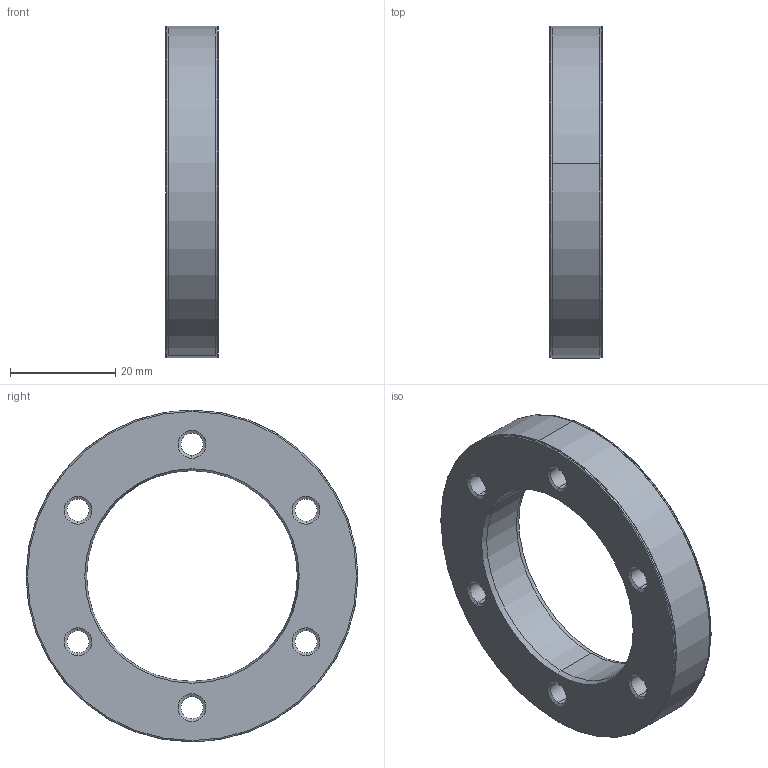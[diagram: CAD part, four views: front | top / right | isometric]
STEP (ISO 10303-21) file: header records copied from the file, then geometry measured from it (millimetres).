
FILE_DESCRIPTION (( 'STEP AP214' ), '1' );
FILE_NAME ('MR063U040.STEP', '2021-09-21T13:32:47', ( '' ), ( '' ), 'SwSTEP 2.0', 'SolidWorks 2020', '' );
FILE_SCHEMA (( 'AUTOMOTIVE_DESIGN' ));
Length unit declared in the file: millimetre
Products named in the file (1): MR063U040
Bounding box: 10 x 63.05 x 63.05 mm (x, y, z)
Volume: 17744.7 mm3; surface area: 7453.3 mm2
Topology: 1 solids, 1 shells, 462 faces, 1217 edges, 802 vertices
Faces by surface type: plane 251, bspline 147, cylinder 32, cone 28, torus 4
Entity records: 26031 total; most frequent: CARTESIAN_POINT 10421, ORIENTED_EDGE 2434, DIRECTION 1659, EDGE_CURVE 1217, VECTOR 819, LINE 819, VERTEX_POINT 802, EDGE_LOOP 521
